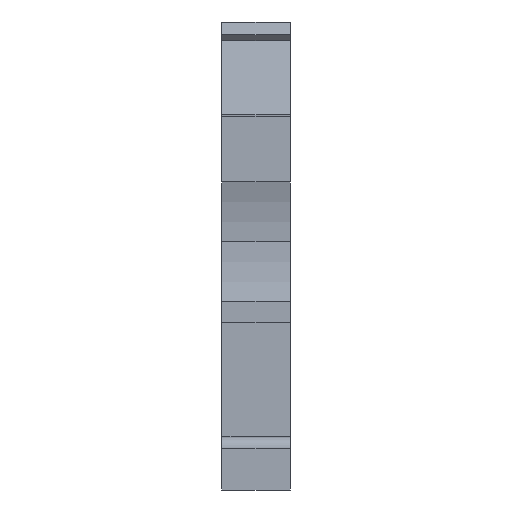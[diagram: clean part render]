
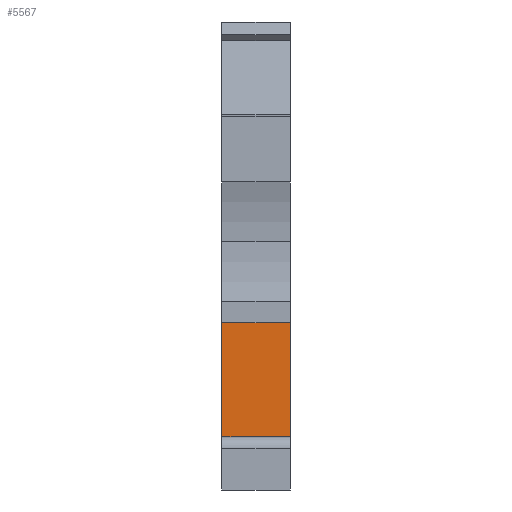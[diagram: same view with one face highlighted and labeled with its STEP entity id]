
A CAD part, front view. The second image highlights one B-rep face of the part: STEP entity #5567.
In plain terms, the highlighted planar face has unit normal (0, -1, 0).
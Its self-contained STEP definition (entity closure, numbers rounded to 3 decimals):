
#34=CARTESIAN_POINT('',(0.,3.6,4.));
#35=VERTEX_POINT('',#34);
#42=CARTESIAN_POINT('',(0.,3.6,12.6));
#43=VERTEX_POINT('',#42);
#44=CARTESIAN_POINT('',(0.,3.6,4.));
#45=DIRECTION('',(-0.,-0.,1.));
#46=VECTOR('',#45,8.6);
#47=LINE('',#44,#46);
#48=EDGE_CURVE('',#35,#43,#47,.T.);
#1010=CARTESIAN_POINT('',(5.15,3.6,12.6));
#1011=VERTEX_POINT('',#1010);
#1018=CARTESIAN_POINT('',(5.15,3.6,1.5));
#1019=VERTEX_POINT('',#1018);
#1020=CARTESIAN_POINT('',(5.15,3.6,12.6));
#1021=DIRECTION('',(0.,0.,-1.));
#1022=VECTOR('',#1021,11.1);
#1023=LINE('',#1020,#1022);
#1024=EDGE_CURVE('',#1011,#1019,#1023,.T.);
#5509=CARTESIAN_POINT('',(0.,3.6,12.6));
#5510=DIRECTION('',(1.,-0.,0.));
#5511=VECTOR('',#5510,5.15);
#5512=LINE('',#5509,#5511);
#5513=EDGE_CURVE('',#43,#1011,#5512,.T.);
#5523=CARTESIAN_POINT('',(1.,3.6,4.));
#5524=VERTEX_POINT('',#5523);
#5531=CARTESIAN_POINT('',(-0.,3.6,4.));
#5532=DIRECTION('',(1.,-0.,0.));
#5533=VECTOR('',#5532,1.);
#5534=LINE('',#5531,#5533);
#5535=EDGE_CURVE('',#35,#5524,#5534,.T.);
#5542=CARTESIAN_POINT('',(5.15,3.6,5.));
#5543=DIRECTION('',(-0.,-1.,-0.));
#5544=DIRECTION('',(-0.,-0.,1.));
#5545=AXIS2_PLACEMENT_3D('',#5542,#5543,#5544);
#5546=PLANE('',#5545);
#5547=ORIENTED_EDGE('',*,*,#5513,.F.);
#5548=ORIENTED_EDGE('',*,*,#48,.F.);
#5549=ORIENTED_EDGE('',*,*,#5535,.T.);
#5550=CARTESIAN_POINT('',(1.,3.6,1.5));
#5551=VERTEX_POINT('',#5550);
#5552=CARTESIAN_POINT('',(1.,3.6,1.5));
#5553=DIRECTION('',(-0.,-0.,1.));
#5554=VECTOR('',#5553,2.5);
#5555=LINE('',#5552,#5554);
#5556=EDGE_CURVE('',#5551,#5524,#5555,.T.);
#5557=ORIENTED_EDGE('',*,*,#5556,.F.);
#5558=CARTESIAN_POINT('',(5.15,3.6,1.5));
#5559=DIRECTION('',(-1.,0.,-0.));
#5560=VECTOR('',#5559,4.15);
#5561=LINE('',#5558,#5560);
#5562=EDGE_CURVE('',#1019,#5551,#5561,.T.);
#5563=ORIENTED_EDGE('',*,*,#5562,.F.);
#5564=ORIENTED_EDGE('',*,*,#1024,.F.);
#5565=EDGE_LOOP('',(#5547,#5548,#5549,#5557,#5563,#5564));
#5566=FACE_BOUND('',#5565,.T.);
#5567=ADVANCED_FACE('',(#5566),#5546,.T.);
